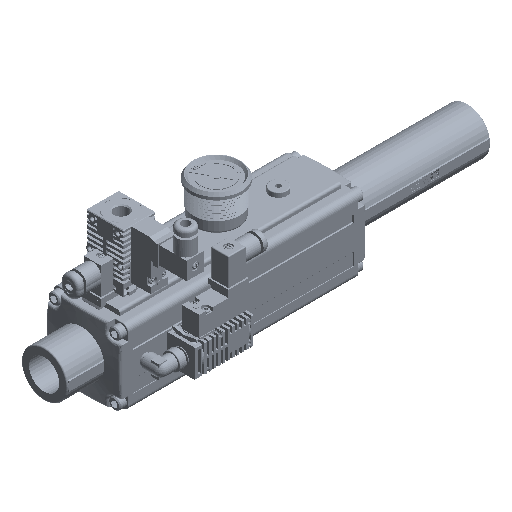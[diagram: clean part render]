
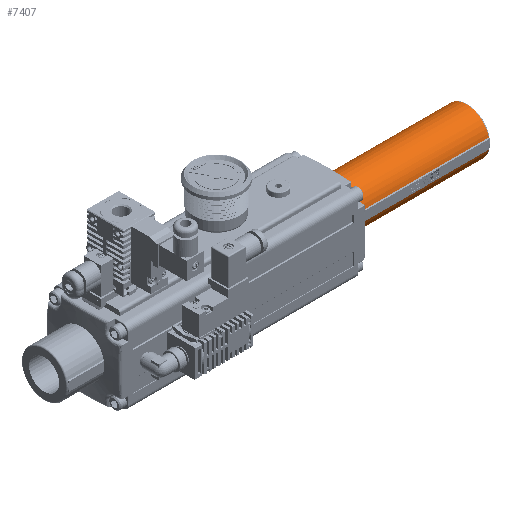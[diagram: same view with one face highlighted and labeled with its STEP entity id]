
A CAD part, isometric view. The second image highlights one B-rep face of the part: STEP entity #7407.
In plain terms, the highlighted cylindrical face has radius 19.6 mm (diameter 39.2 mm), a full revolution.
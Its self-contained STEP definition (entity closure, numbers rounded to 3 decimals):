
#7407 = ADVANCED_FACE( '', ( #15948, #15949 ), #15950, .T. );
#15948 = FACE_OUTER_BOUND( '', #27417, .T. );
#15949 = FACE_OUTER_BOUND( '', #27418, .T. );
#15950 = CYLINDRICAL_SURFACE( '', #27419, 19.6 );
#27417 = EDGE_LOOP( '', ( #49989 ) );
#27418 = EDGE_LOOP( '', ( #49990, #49991, #49992, #49993, #49994, #49995, #49996, #49997 ) );
#27419 = AXIS2_PLACEMENT_3D( '', #49998, #49999, #50000 );
#49989 = ORIENTED_EDGE( '', *, *, #64409, .T. );
#49990 = ORIENTED_EDGE( '', *, *, #62885, .F. );
#49991 = ORIENTED_EDGE( '', *, *, #64285, .F. );
#49992 = ORIENTED_EDGE( '', *, *, #64640, .T. );
#49993 = ORIENTED_EDGE( '', *, *, #64641, .T. );
#49994 = ORIENTED_EDGE( '', *, *, #64642, .F. );
#49995 = ORIENTED_EDGE( '', *, *, #56237, .F. );
#49996 = ORIENTED_EDGE( '', *, *, #64592, .T. );
#49997 = ORIENTED_EDGE( '', *, *, #64643, .T. );
#49998 = CARTESIAN_POINT( '', ( -64.5, 0., 0. ) );
#49999 = DIRECTION( '', ( -1., 0., 0. ) );
#50000 = DIRECTION( '', ( 0., 0., -1. ) );
#56237 = EDGE_CURVE( '', #66346, #66338, #66348, .T. );
#62885 = EDGE_CURVE( '', #76889, #76887, #76891, .T. );
#64285 = EDGE_CURVE( '', #78658, #76889, #78660, .T. );
#64409 = EDGE_CURVE( '', #78807, #78807, #78808, .T. );
#64592 = EDGE_CURVE( '', #66346, #79019, #79021, .T. );
#64640 = EDGE_CURVE( '', #78658, #79073, #79074, .T. );
#64641 = EDGE_CURVE( '', #79073, #79075, #79076, .T. );
#64642 = EDGE_CURVE( '', #66338, #79075, #79077, .T. );
#64643 = EDGE_CURVE( '', #79019, #76887, #79078, .T. );
#66338 = VERTEX_POINT( '', #81084 );
#66346 = VERTEX_POINT( '', #81096 );
#66348 = CIRCLE( '', #81099, 19.6 );
#76887 = VERTEX_POINT( '', #98701 );
#76889 = VERTEX_POINT( '', #98704 );
#76891 = LINE( '', #98707, #98708 );
#78658 = VERTEX_POINT( '', #101847 );
#78660 = CIRCLE( '', #101850, 19.6 );
#78807 = VERTEX_POINT( '', #102138 );
#78808 = CIRCLE( '', #102139, 19.6 );
#79019 = VERTEX_POINT( '', #102445 );
#79021 = LINE( '', #102448, #102449 );
#79073 = VERTEX_POINT( '', #102619 );
#79074 = LINE( '', #102620, #102621 );
#79075 = VERTEX_POINT( '', #102622 );
#79076 = CIRCLE( '', #102623, 19.6 );
#79077 = LINE( '', #102624, #102625 );
#79078 = CIRCLE( '', #102626, 19.6 );
#81084 = CARTESIAN_POINT( '', ( -63., 19.076, 4.5 ) );
#81096 = CARTESIAN_POINT( '', ( -63., 19.076, -4.5 ) );
#81099 = AXIS2_PLACEMENT_3D( '', #104909, #104910, #104911 );
#98701 = CARTESIAN_POINT( '', ( 50.5, -19.076, -4.5 ) );
#98704 = CARTESIAN_POINT( '', ( -63., -19.076, -4.5 ) );
#98707 = CARTESIAN_POINT( '', ( -64.5, -19.076, -4.5 ) );
#98708 = VECTOR( '', #112555, 1000. );
#101847 = CARTESIAN_POINT( '', ( -63., -19.076, 4.5 ) );
#101850 = AXIS2_PLACEMENT_3D( '', #113870, #113871, #113872 );
#102138 = CARTESIAN_POINT( '', ( -63.5, 0., -19.6 ) );
#102139 = AXIS2_PLACEMENT_3D( '', #113996, #113997, #113998 );
#102445 = CARTESIAN_POINT( '', ( 50.5, 19.076, -4.5 ) );
#102448 = CARTESIAN_POINT( '', ( -64.5, 19.076, -4.5 ) );
#102449 = VECTOR( '', #114174, 1000. );
#102619 = CARTESIAN_POINT( '', ( 50.5, -19.076, 4.5 ) );
#102620 = CARTESIAN_POINT( '', ( -64.5, -19.076, 4.5 ) );
#102621 = VECTOR( '', #114211, 1000. );
#102622 = CARTESIAN_POINT( '', ( 50.5, 19.076, 4.5 ) );
#102623 = AXIS2_PLACEMENT_3D( '', #114212, #114213, #114214 );
#102624 = CARTESIAN_POINT( '', ( -64.5, 19.076, 4.5 ) );
#102625 = VECTOR( '', #114215, 1000. );
#102626 = AXIS2_PLACEMENT_3D( '', #114216, #114217, #114218 );
#104909 = CARTESIAN_POINT( '', ( -63., 0., 0. ) );
#104910 = DIRECTION( '', ( 1., 0., 0. ) );
#104911 = DIRECTION( '', ( 0., 0., 1. ) );
#112555 = DIRECTION( '', ( 1., 0., 0. ) );
#113870 = CARTESIAN_POINT( '', ( -63., 0., 0. ) );
#113871 = DIRECTION( '', ( 1., 0., 0. ) );
#113872 = DIRECTION( '', ( 0., 0., 1. ) );
#113996 = CARTESIAN_POINT( '', ( -63.5, 0., 0. ) );
#113997 = DIRECTION( '', ( 1., 0., 0. ) );
#113998 = DIRECTION( '', ( 0., 0., -1. ) );
#114174 = DIRECTION( '', ( 1., 0., 0. ) );
#114211 = DIRECTION( '', ( 1., 0., 0. ) );
#114212 = CARTESIAN_POINT( '', ( 50.5, 0., 0. ) );
#114213 = DIRECTION( '', ( -1., 0., 0. ) );
#114214 = DIRECTION( '', ( 0., 1., 0. ) );
#114215 = DIRECTION( '', ( 1., 0., 0. ) );
#114216 = CARTESIAN_POINT( '', ( 50.5, 0., 0. ) );
#114217 = DIRECTION( '', ( -1., 0., 0. ) );
#114218 = DIRECTION( '', ( 0., 1., 0. ) );
